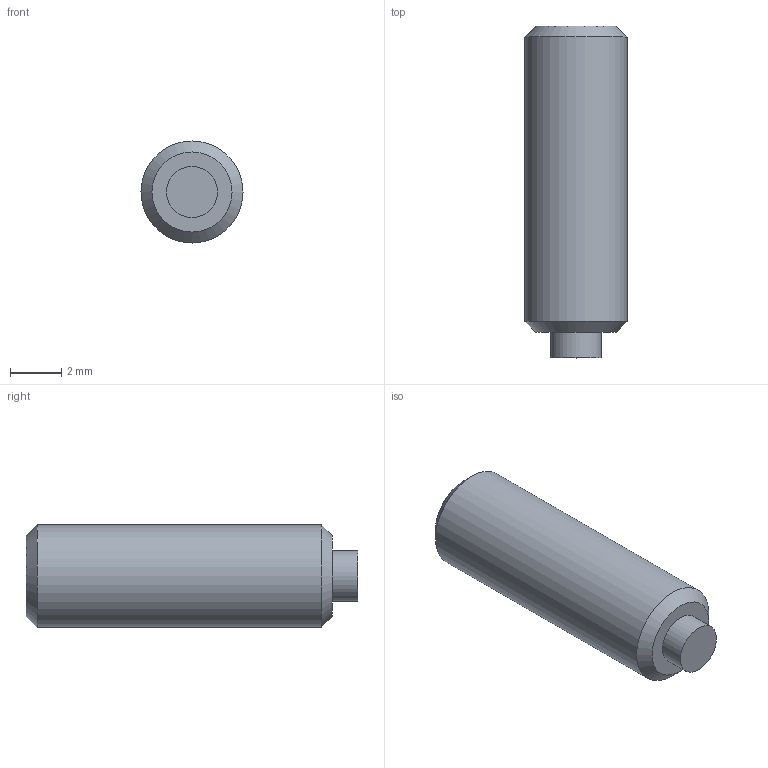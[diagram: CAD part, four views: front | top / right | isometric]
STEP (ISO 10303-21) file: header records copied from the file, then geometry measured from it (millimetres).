
FILE_DESCRIPTION( ( 'STEP AP203' ), '1' );
FILE_NAME( 'C:/Temp/Ganter_Step_05_03_2020/data/3_2/gn913_3/Grub screw GN 913.3-M4-12-KU.stp', '2020-03-13T05:35:33', ( 'License CC BY-ND 4.0' ), ( 'CADENAS' ), ' ', 'PARTsolutions', ' ' );
FILE_SCHEMA( ( 'CONFIG_CONTROL_DESIGN' ) );
Length unit declared in the file: millimetre
Products named in the file (1): _Grub screw GN 913.3-M4-12-KU
Bounding box: 4 x 13 x 4 mm (x, y, z)
Volume: 146.9 mm3; surface area: 188.4 mm2
Topology: 1 solids, 1 shells, 14 faces, 28 edges, 18 vertices
Faces by surface type: plane 10, cylinder 2, cone 2
Full cylindrical faces by diameter (mm): 2 x1, 4 x1
Entity records: 386 total; most frequent: DIRECTION 60, CARTESIAN_POINT 57, ORIENTED_EDGE 48, EDGE_CURVE 24, AXIS2_PLACEMENT_3D 21, EDGE_LOOP 20, VERTEX_POINT 18, LINE 18
